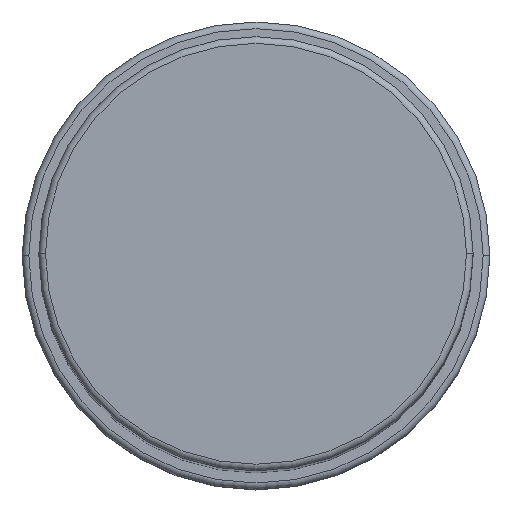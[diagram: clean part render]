
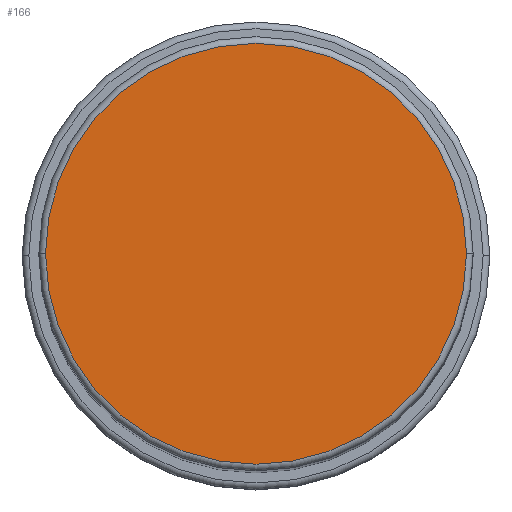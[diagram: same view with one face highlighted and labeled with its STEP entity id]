
A CAD part, top view. The second image highlights one B-rep face of the part: STEP entity #166.
In plain terms, the highlighted planar face has unit normal (0, 0, 1).
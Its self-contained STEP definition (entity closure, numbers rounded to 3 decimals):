
#7 = AXIS2_PLACEMENT_3D ( 'NONE', #1060, #543, #673 ) ;
#48 = AXIS2_PLACEMENT_3D ( 'NONE', #595, #349, #353 ) ;
#58 = EDGE_LOOP ( 'NONE', ( #1005, #1096 ) ) ;
#82 = EDGE_CURVE ( 'NONE', #1203, #1170, #460, .T. ) ;
#166 = ADVANCED_FACE ( 'NONE', ( #848 ), #798, .T. ) ;
#349 = DIRECTION ( 'NONE',  ( 0., 0., 1. ) ) ;
#353 = DIRECTION ( 'NONE',  ( 1., 0., 0. ) ) ;
#380 = CARTESIAN_POINT ( 'NONE',  ( 0., 0., 188. ) ) ;
#460 = CIRCLE ( 'NONE', #48, 31.5 ) ;
#543 = DIRECTION ( 'NONE',  ( 0., 0., 1. ) ) ;
#551 = CIRCLE ( 'NONE', #1123, 31.5 ) ;
#595 = CARTESIAN_POINT ( 'NONE',  ( 0., 0., 188. ) ) ;
#673 = DIRECTION ( 'NONE',  ( 1., 0., 0. ) ) ;
#728 = CARTESIAN_POINT ( 'NONE',  ( 31.5, 0., 188. ) ) ;
#798 = PLANE ( 'NONE',  #7 ) ;
#848 = FACE_OUTER_BOUND ( 'NONE', #58, .T. ) ;
#880 = DIRECTION ( 'NONE',  ( 0., 0., 1. ) ) ;
#1005 = ORIENTED_EDGE ( 'NONE', *, *, #1414, .T. ) ;
#1060 = CARTESIAN_POINT ( 'NONE',  ( 0., 0., 188. ) ) ;
#1096 = ORIENTED_EDGE ( 'NONE', *, *, #82, .T. ) ;
#1123 = AXIS2_PLACEMENT_3D ( 'NONE', #380, #880, #1404 ) ;
#1170 = VERTEX_POINT ( 'NONE', #728 ) ;
#1203 = VERTEX_POINT ( 'NONE', #1556 ) ;
#1404 = DIRECTION ( 'NONE',  ( 1., 0., 0. ) ) ;
#1414 = EDGE_CURVE ( 'NONE', #1170, #1203, #551, .T. ) ;
#1556 = CARTESIAN_POINT ( 'NONE',  ( -31.5, 0., 188. ) ) ;
